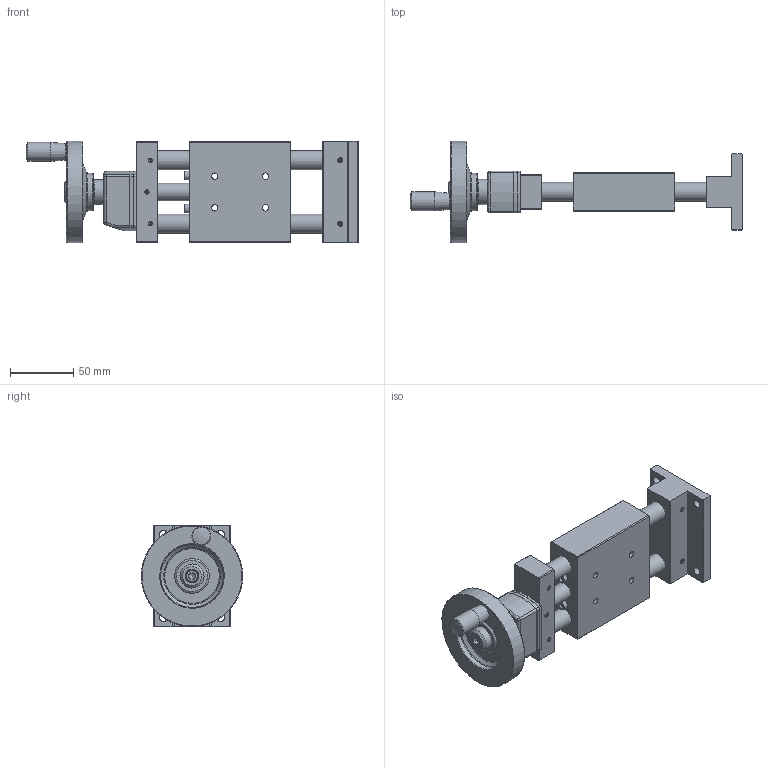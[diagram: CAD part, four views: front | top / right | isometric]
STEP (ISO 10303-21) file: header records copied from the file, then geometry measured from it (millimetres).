
FILE_DESCRIPTION (( 'STEP AP203' ), '1' );
FILE_NAME ('BHST80-25.STEP', '2024-07-30T01:06:15', ( 'Windows User' ), ( 'P R C' ), 'SwSTEP 2.0', 'SolidWorks 2024', '' );
FILE_SCHEMA (( 'CONFIG_CONTROL_DESIGN' ));
Length unit declared in the file: millimetre
Products named in the file (1): BHST80-25
Bounding box: 261.9 x 79.88 x 80 mm (x, y, z)
Volume: 425823.2 mm3; surface area: 128692.7 mm2
Topology: 30 solids, 30 shells, 544 faces, 1223 edges, 759 vertices
Faces by surface type: plane 318, cylinder 128, cone 72, torus 14, bspline 11, sphere 1
Full cylindrical faces by diameter (mm): 3 x1, 3.3 x13, 4 x13, 4.5 x2, 4.917 x1, 5 x5, 6 x5, 6.6 x5, 7 x2, 7.5 x2, 8 x2, 10 x7, 10.1 x1, 11 x1, 14 x4, 14.5 x1, 15 x9, 16 x2, 17 x1, 17.1 x1, 19 x1, 19.8 x3, 20 x1, 20.5 x1, 27 x1, 30 x1, 50 x1, 80 x1
Entity records: 14851 total; most frequent: CARTESIAN_POINT 3409, DIRECTION 2424, ORIENTED_EDGE 1978, EDGE_CURVE 989, AXIS2_PLACEMENT_3D 934, EDGE_LOOP 825, VERTEX_POINT 706, FACE_OUTER_BOUND 646
